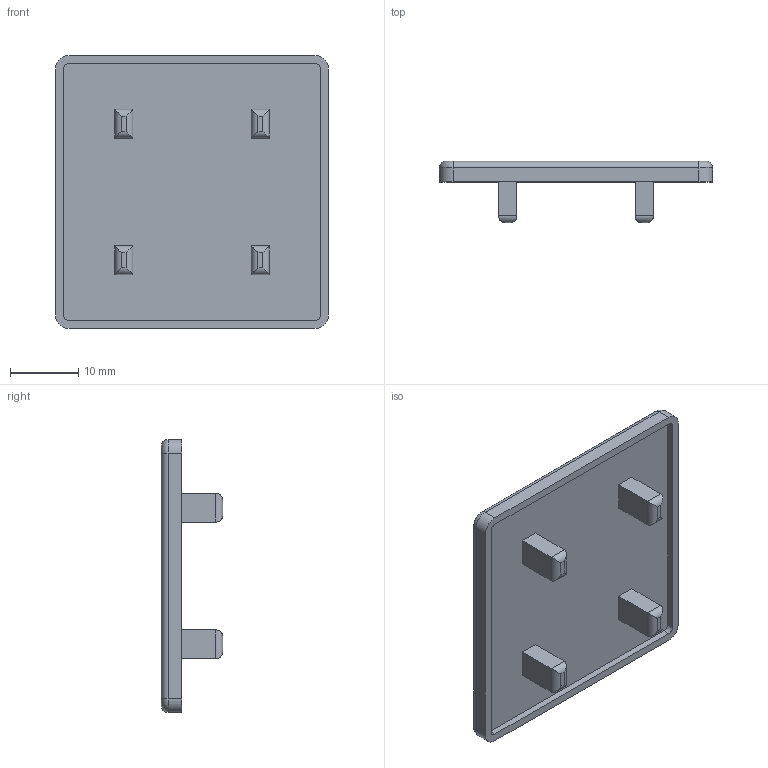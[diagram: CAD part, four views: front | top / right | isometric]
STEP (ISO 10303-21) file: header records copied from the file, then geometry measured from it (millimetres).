
FILE_DESCRIPTION (( 'STEP AP214' ), '1' );
FILE_NAME ('J2C44.step', '2017-05-24T07:36:32', ( 'admin' ), ( '' ), 'SwSTEP 2.0', 'SolidWorks 2014', '' );
FILE_SCHEMA (( 'AUTOMOTIVE_DESIGN' ));
Length unit declared in the file: millimetre
Products named in the file (1): J2C44
Bounding box: 40 x 9 x 40 mm (x, y, z)
Volume: 3650.4 mm3; surface area: 4104.7 mm2
Topology: 1 solids, 1 shells, 63 faces, 144 edges, 88 vertices
Faces by surface type: plane 31, cylinder 28, torus 4
Entity records: 1768 total; most frequent: CARTESIAN_POINT 344, ORIENTED_EDGE 288, DIRECTION 284, EDGE_CURVE 144, LINE 100, VECTOR 100, AXIS2_PLACEMENT_3D 92, VERTEX_POINT 88
